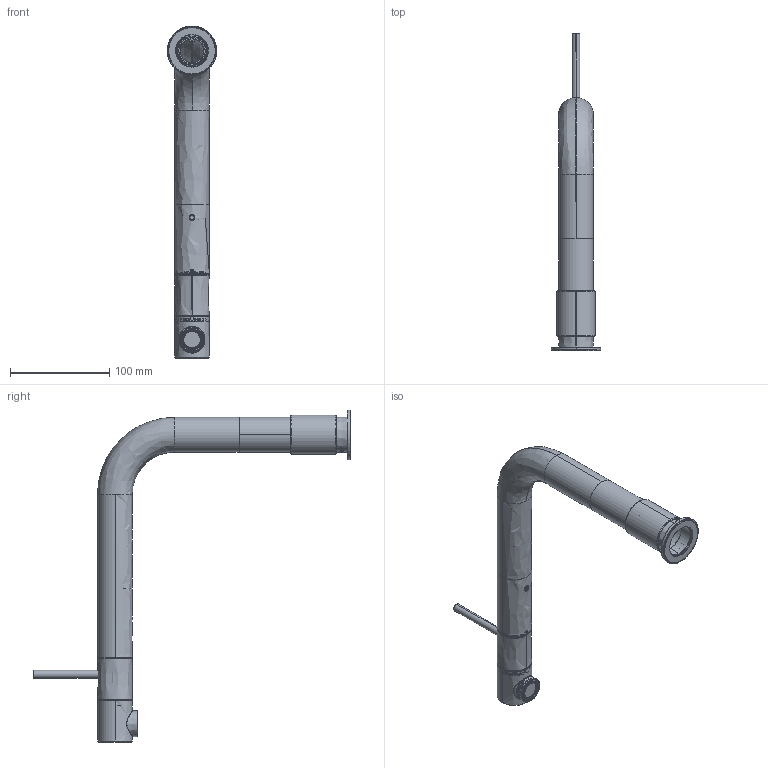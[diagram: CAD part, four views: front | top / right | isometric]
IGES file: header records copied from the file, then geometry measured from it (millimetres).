
Start section: SolidWorks IGES file using analytic representation for surfaces
Global section: file name: Q:\InterDept\Assortiment Kranen Digitaal\3D views\Files IGS (external use)\Kranen\Front no Knurl.IGS; native system: SolidWorks 2020; preprocessor: SolidWorks 2020; author: r.peters; date: 220415.093103; units: millimetre
Bounding box: 50 x 320.95 x 335.2 mm (x, y, z)
Surface area: 140419 mm2 (no closed solid volume)
Topology: 0 solids, 0 shells, 1014 faces, 13431 edges, 13385 vertices
Faces by surface type: bspline 585, revolution 429
